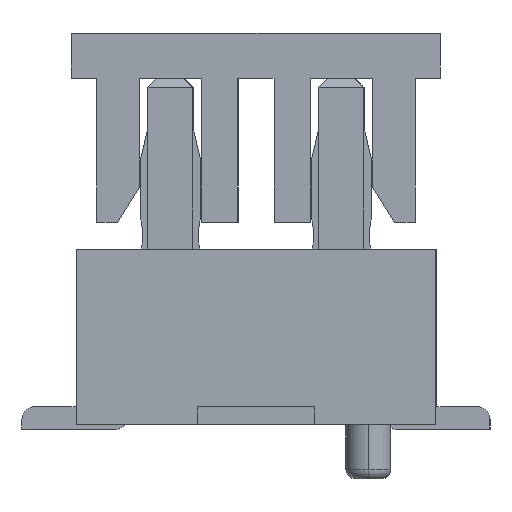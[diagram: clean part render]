
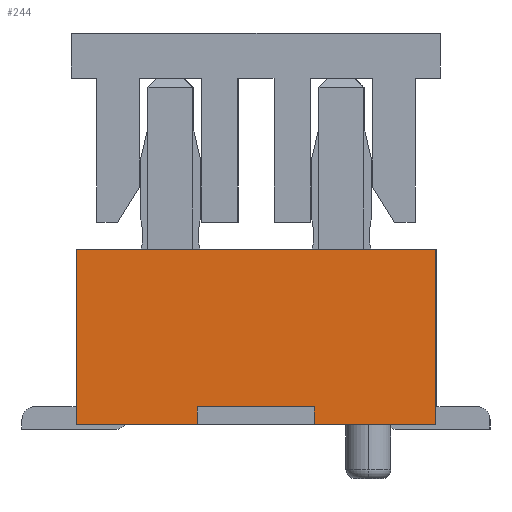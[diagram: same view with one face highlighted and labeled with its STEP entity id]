
A CAD part, left-side view. The second image highlights one B-rep face of the part: STEP entity #244.
In plain terms, the highlighted planar face has unit normal (-1, 0, 0).
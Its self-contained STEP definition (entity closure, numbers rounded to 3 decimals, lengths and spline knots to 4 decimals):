
#173=CARTESIAN_POINT('Axis2P3D Location',(-11.85,0.,0.)) ;
#178=CARTESIAN_POINT('Line Origine',(-11.85,0.65,0.1)) ;
#182=CARTESIAN_POINT('Vertex',(-11.85,0.65,0.)) ;
#184=CARTESIAN_POINT('Vertex',(-11.85,0.65,0.2)) ;
#187=CARTESIAN_POINT('Line Origine',(-11.85,0.,0.2)) ;
#191=CARTESIAN_POINT('Vertex',(-11.85,-0.65,0.2)) ;
#194=CARTESIAN_POINT('Line Origine',(-11.85,-0.65,0.1)) ;
#198=CARTESIAN_POINT('Vertex',(-11.85,-0.65,0.)) ;
#201=CARTESIAN_POINT('Line Origine',(-11.85,-1.325,0.)) ;
#205=CARTESIAN_POINT('Vertex',(-11.85,-2.,0.)) ;
#208=CARTESIAN_POINT('Line Origine',(-11.85,-2.,0.975)) ;
#212=CARTESIAN_POINT('Vertex',(-11.85,-2.,1.95)) ;
#215=CARTESIAN_POINT('Line Origine',(-11.85,0.,1.95)) ;
#219=CARTESIAN_POINT('Vertex',(-11.85,2.,1.95)) ;
#222=CARTESIAN_POINT('Line Origine',(-11.85,2.,0.975)) ;
#226=CARTESIAN_POINT('Vertex',(-11.85,2.,0.)) ;
#229=CARTESIAN_POINT('Line Origine',(-11.85,1.325,0.)) ;
#174=DIRECTION('Axis2P3D Direction',(1.,0.,0.)) ;
#175=DIRECTION('Axis2P3D XDirection',(0.,1.,0.)) ;
#179=DIRECTION('Vector Direction',(0.,0.,1.)) ;
#188=DIRECTION('Vector Direction',(0.,1.,0.)) ;
#195=DIRECTION('Vector Direction',(0.,0.,1.)) ;
#202=DIRECTION('Vector Direction',(0.,1.,0.)) ;
#209=DIRECTION('Vector Direction',(0.,0.,-1.)) ;
#216=DIRECTION('Vector Direction',(0.,1.,0.)) ;
#223=DIRECTION('Vector Direction',(0.,0.,-1.)) ;
#230=DIRECTION('Vector Direction',(0.,1.,0.)) ;
#176=AXIS2_PLACEMENT_3D('Plane Axis2P3D',#173,#174,#175) ;
#235=ORIENTED_EDGE('',*,*,#186,.T.) ;
#236=ORIENTED_EDGE('',*,*,#193,.F.) ;
#237=ORIENTED_EDGE('',*,*,#200,.F.) ;
#238=ORIENTED_EDGE('',*,*,#207,.F.) ;
#239=ORIENTED_EDGE('',*,*,#214,.F.) ;
#240=ORIENTED_EDGE('',*,*,#221,.F.) ;
#241=ORIENTED_EDGE('',*,*,#228,.F.) ;
#242=ORIENTED_EDGE('',*,*,#233,.F.) ;
#180=VECTOR('Line Direction',#179,1.) ;
#189=VECTOR('Line Direction',#188,1.) ;
#196=VECTOR('Line Direction',#195,1.) ;
#203=VECTOR('Line Direction',#202,1.) ;
#210=VECTOR('Line Direction',#209,1.) ;
#217=VECTOR('Line Direction',#216,1.) ;
#224=VECTOR('Line Direction',#223,1.) ;
#231=VECTOR('Line Direction',#230,1.) ;
#244=ADVANCED_FACE('\X2\96F64EF651E04F554F53\X0\',(#243),#177,.F.) ;
#186=EDGE_CURVE('',#183,#185,#181,.T.) ;
#193=EDGE_CURVE('',#192,#185,#190,.T.) ;
#200=EDGE_CURVE('',#199,#192,#197,.T.) ;
#207=EDGE_CURVE('',#206,#199,#204,.T.) ;
#214=EDGE_CURVE('',#213,#206,#211,.T.) ;
#221=EDGE_CURVE('',#220,#213,#218,.F.) ;
#228=EDGE_CURVE('',#227,#220,#225,.F.) ;
#233=EDGE_CURVE('',#183,#227,#232,.T.) ;
#234=EDGE_LOOP('',(#235,#236,#237,#238,#239,#240,#241,#242)) ;
#243=FACE_OUTER_BOUND('',#234,.T.) ;
#181=LINE('Line',#178,#180) ;
#190=LINE('Line',#187,#189) ;
#197=LINE('Line',#194,#196) ;
#204=LINE('Line',#201,#203) ;
#211=LINE('Line',#208,#210) ;
#218=LINE('Line',#215,#217) ;
#225=LINE('Line',#222,#224) ;
#232=LINE('Line',#229,#231) ;
#177=PLANE('Plane',#176) ;
#183=VERTEX_POINT('',#182) ;
#185=VERTEX_POINT('',#184) ;
#192=VERTEX_POINT('',#191) ;
#199=VERTEX_POINT('',#198) ;
#206=VERTEX_POINT('',#205) ;
#213=VERTEX_POINT('',#212) ;
#220=VERTEX_POINT('',#219) ;
#227=VERTEX_POINT('',#226) ;
